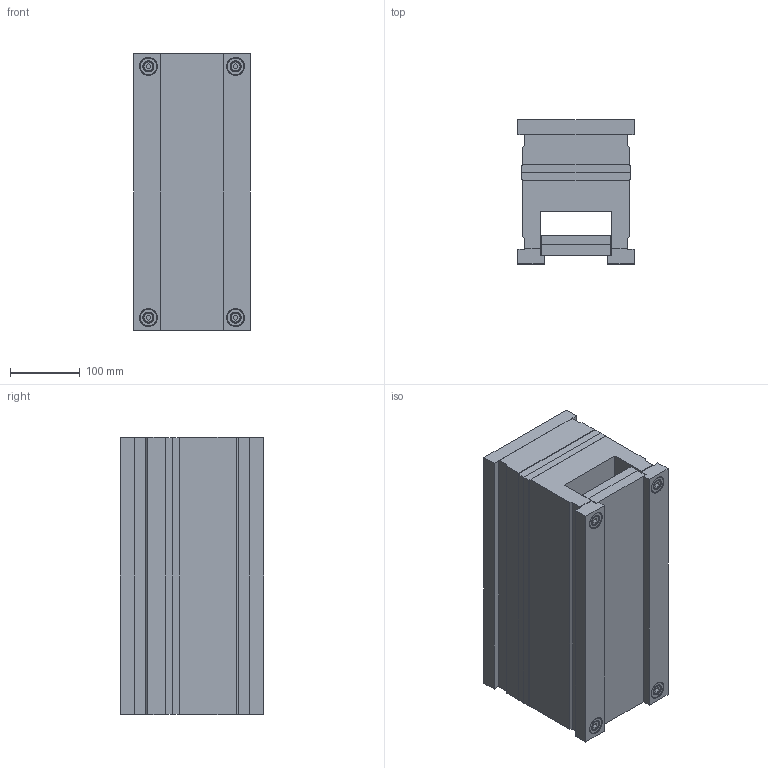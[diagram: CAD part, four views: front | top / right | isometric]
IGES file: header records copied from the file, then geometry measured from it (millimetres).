
Start section: SolidWorks IGES FILE using analytic representation for surfaces
Global section: file name: C:\Documents and Settings\K.P\My Documents\Mechanical\ALMO\CATL_EUR\RECT\1566.IGS; native system: SolidWorks 2001Plus by SolidWorks Corporation; preprocessor: Version 5.3; author: Pavel; date: 020709.091857; units: millimetre
Bounding box: 167 x 206 x 398 mm (x, y, z)
Surface area: 858982.2 mm2 (no closed solid volume)
Topology: 0 solids, 0 shells, 706 faces, 10312 edges, 10304 vertices
Faces by surface type: revolution 452, bspline 254
